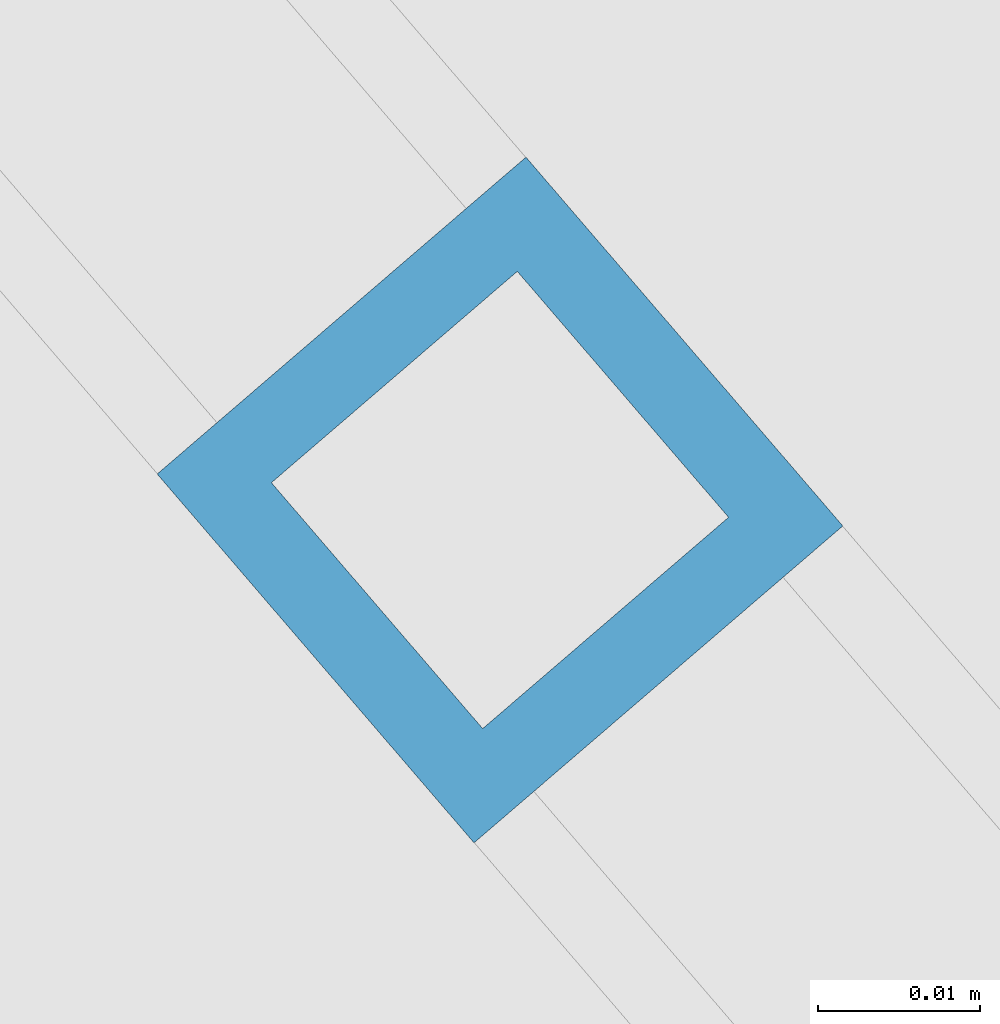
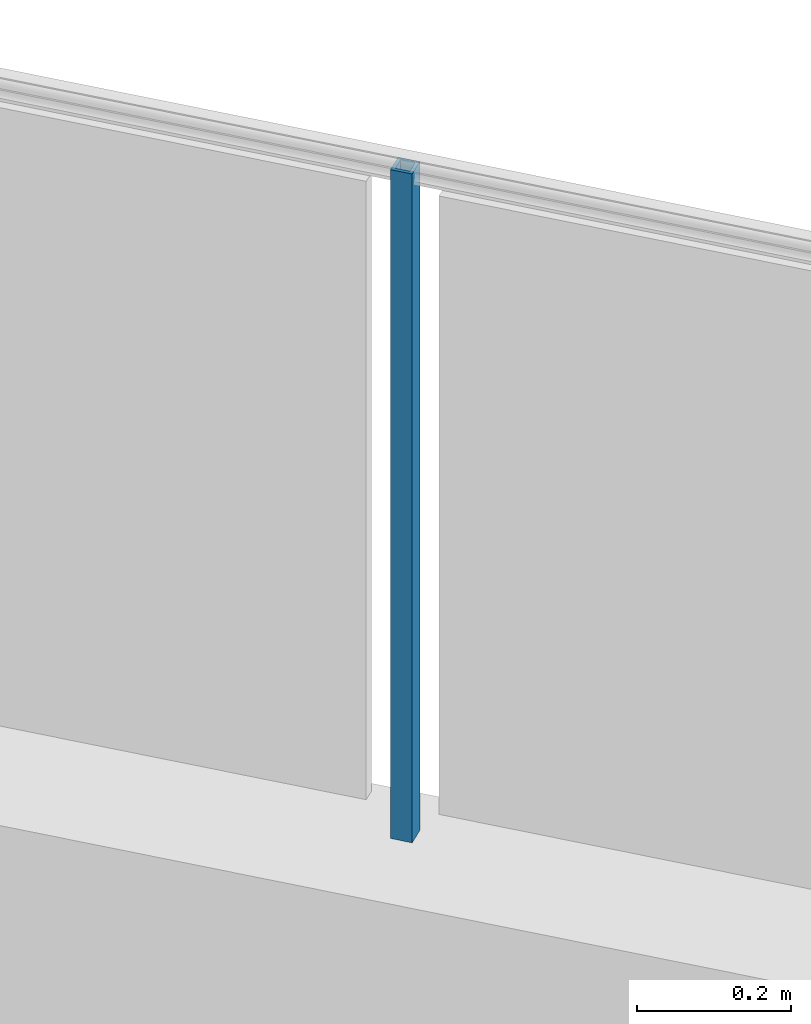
# One storey, part 54 of 75: 1 building element part, 1 element without a shape of its own.
"""IFC4 building model written with IfcOpenShell, lengths in metres."""

from ifc_helpers import new_model, entity, si_unit, converted_unit, derived_unit, direction, frame, origin_with_axes, place, context, subcontext, project, spatial, polygons, material, type_object, element, aggregate, save


model = new_model("IFC4")

# Units and contexts
model_context = context("Model", 3, precision=1e-05, world=origin_with_axes(), true_north=direction((0.0, 1.0)))
body_context = subcontext(model_context, "Body", "Model", "MODEL_VIEW")
ifc_project = project(units=[si_unit("LENGTHUNIT", "METRE"), si_unit("AREAUNIT", "SQUARE_METRE"), si_unit("VOLUMEUNIT", "CUBIC_METRE"), converted_unit("PLANEANGLEUNIT", "DEGREE", entity("IfcPlaneAngleMeasure", 0.0174532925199), si_unit("PLANEANGLEUNIT", "RADIAN"), dimensions=[0, 0, 0, 0, 0, 0, 0]), converted_unit("TIMEUNIT", "Year", entity("IfcTimeMeasure", 31556926.0), si_unit("TIMEUNIT", "SECOND"), dimensions=[0, 0, 1, 0, 0, 0, 0]), si_unit("MASSUNIT", "GRAM", prefix="KILO"), si_unit("THERMODYNAMICTEMPERATUREUNIT", "DEGREE_CELSIUS"), si_unit("LUMINOUSINTENSITYUNIT", "LUMEN"), si_unit("ENERGYUNIT", "JOULE", prefix="MEGA"), derived_unit("THERMALCONDUCTANCEUNIT", [(si_unit("POWERUNIT", "WATT"), 1), (si_unit("LENGTHUNIT", "METRE"), -1), (si_unit("THERMODYNAMICTEMPERATUREUNIT", "KELVIN"), -1)]), derived_unit("SPECIFICHEATCAPACITYUNIT", [(si_unit("ENERGYUNIT", "JOULE"), 1), (si_unit("MASSUNIT", "GRAM", prefix="KILO"), -1), (si_unit("THERMODYNAMICTEMPERATUREUNIT", "KELVIN"), -1)]), derived_unit("MASSDENSITYUNIT", [(si_unit("MASSUNIT", "GRAM", prefix="KILO"), 1), (si_unit("VOLUMEUNIT", "CUBIC_METRE"), -1)])], contexts=[model_context])

# Site, building, storey
site_placement = place(None, frame((-0.00153261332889, -0.00661245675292, 0.0), z_axis=(0.0, 0.0, 1.0), x_axis=(1.0, 0.0, 0.0)))
site = spatial("IfcSite", under=ifc_project, at=site_placement, Name="Gelände", CompositionType="ELEMENT")
building_placement = place(site_placement, origin_with_axes())
building = spatial("IfcBuilding", under=site, at=building_placement, Name="Gebäude", CompositionType="ELEMENT")
storey_placement = place(building_placement, frame((0.0, 0.0, -0.22), z_axis=(0.0, 0.0, 1.0), x_axis=(1.0, 0.0, 0.0)))
storey = spatial("IfcBuildingStorey", under=building, at=storey_placement, Name="EG", CompositionType="ELEMENT", Elevation=-0.22)

# Railing, building element part
railing_type = type_object("IfcRailingType", Name="Geländerart", PredefinedType="NOTDEFINED")
railing_placement = place(storey_placement, frame((-12.1608341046, 23.557810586, 0.523948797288), z_axis=(0.0, 0.0, 1.0), x_axis=(1.0, 0.0, 0.0)))
railing = element("IfcRailing", 1, at=railing_placement, inside=storey, type_object=railing_type, Name="Geländer - 001", PredefinedType="NOTDEFINED")
ifc_material = material(Name="Aluminium")
building_element_part_placement = place(railing_placement, origin_with_axes())
building_element_part = element("IfcBuildingElementPart", 2, at=building_element_part_placement, material=ifc_material, Name="Aluminium", PredefinedType="NOTDEFINED", context=body_context, shape_type="Tessellation", body=[
    polygons([(25.5633275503, 4.00501401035, 0.0), (25.5405734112, 3.98546281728, 0.0), (25.5405734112, 3.98546281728, 1.06), (25.5633275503, 4.00501401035, 1.06), (25.5828787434, 3.98225987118, 0.0), (25.5601246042, 3.9627086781, 0.0), (25.562793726, 3.99796312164, 0.0), (25.5476242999, 3.98492899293, 0.0), (25.5606584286, 3.96975956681, 0.0), (25.5758278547, 3.98279369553, 0.0), (25.5601246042, 3.9627086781, 1.06), (25.5828787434, 3.98225987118, 1.06), (25.562793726, 3.99796312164, 1.06), (25.5758278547, 3.98279369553, 1.06), (25.5606584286, 3.96975956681, 1.06), (25.5476242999, 3.98492899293, 1.06)], [[[1, 2, 3, 4]], [[1, 5, 6, 2], [7, 8, 9, 10]], [[2, 6, 11, 3]], [[4, 3, 11, 12], [13, 14, 15, 16]], [[5, 1, 4, 12]], [[6, 5, 12, 11]], [[8, 7, 13, 16]], [[9, 8, 16, 15]], [[10, 9, 15, 14]], [[7, 10, 14, 13]]], closed=True),
])
aggregate(railing, [building_element_part])

save(model, "model.ifc")
